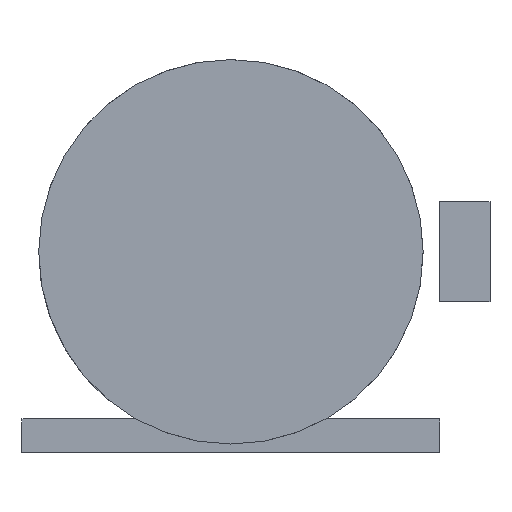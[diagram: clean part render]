
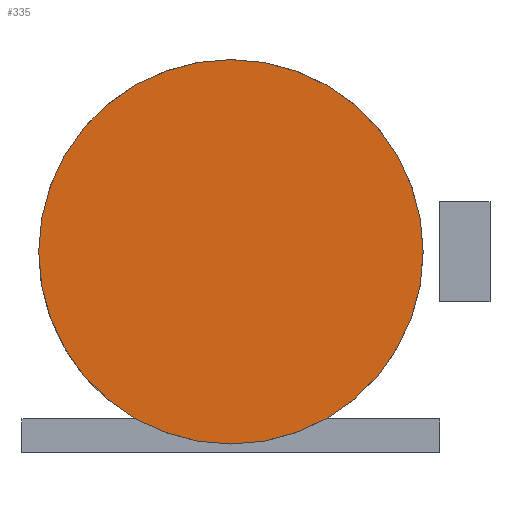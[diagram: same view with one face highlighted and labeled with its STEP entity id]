
A CAD part, front view. The second image highlights one B-rep face of the part: STEP entity #335.
In plain terms, the highlighted planar face has unit normal (0, -1, 0).
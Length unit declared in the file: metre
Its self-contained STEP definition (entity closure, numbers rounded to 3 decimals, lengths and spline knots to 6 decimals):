
#24=PLANE('',#385);
#45=FACE_OUTER_BOUND('',#66,.T.);
#66=EDGE_LOOP('',(#266));
#155=CIRCLE('',#381,0.115);
#171=VERTEX_POINT('',#534);
#205=EDGE_CURVE('',#171,#171,#155,.T.);
#266=ORIENTED_EDGE('',*,*,#205,.T.);
#335=ADVANCED_FACE('',(#45),#24,.F.);
#381=AXIS2_PLACEMENT_3D('',#535,#438,#439);
#385=AXIS2_PLACEMENT_3D('',#547,#449,#450);
#438=DIRECTION('center_axis',(0.,-1.,0.));
#439=DIRECTION('ref_axis',(1.,0.,0.));
#449=DIRECTION('center_axis',(0.,1.,0.));
#450=DIRECTION('ref_axis',(0.,0.,1.));
#534=CARTESIAN_POINT('',(-0.115,-0.2,0.12));
#535=CARTESIAN_POINT('Origin',(0.,-0.2,0.12));
#547=CARTESIAN_POINT('Origin',(0.,-0.2,0.12));
